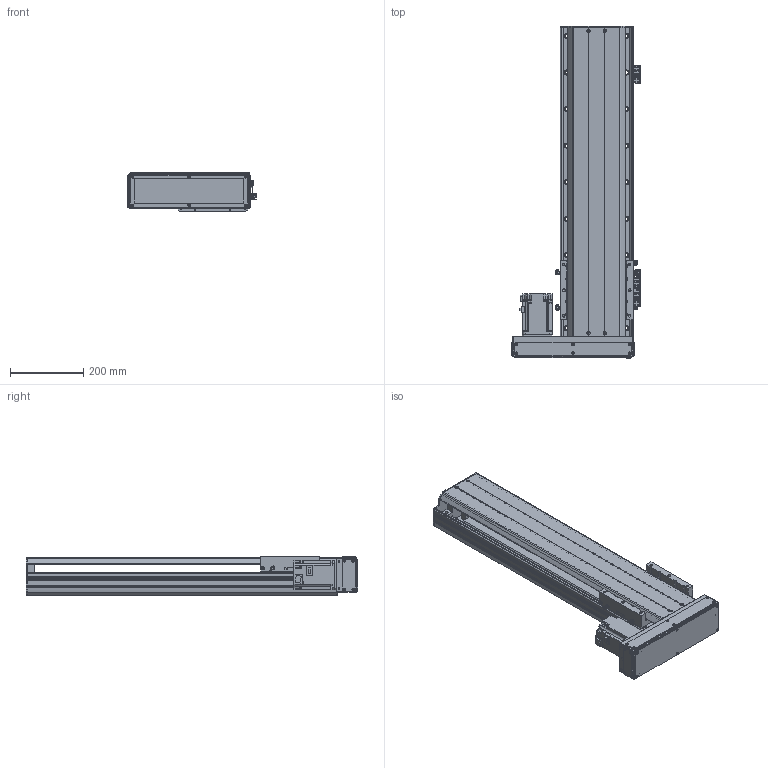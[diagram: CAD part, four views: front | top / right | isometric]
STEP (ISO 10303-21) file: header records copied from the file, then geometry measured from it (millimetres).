
FILE_DESCRIPTION(/* description */ ('MANUFACTURE'),/* implementation_level */ '2;1');
FILE_NAME(/* name */ '\\192.168.0.160\disk1\HAN SHIN Master\B-설계부문\C-표준\B-2024년\BC02-표준도면\+로봇 개선표준도면\표준 승인도 작업 폴더\3D\HG200\HG200병렬\좌병렬\HG200-L70-N-0600-R10.stp',/* time_stamp */ '2024-02-23T15:32:54+09:00',/* author */ ('User'),/* organization */ (''),/* preprocessor_version */ 'ST-DEVELOPER v18.1',/* originating_system */ 'Autodesk Inventor 2022',/* authorisation */ 'LIP');
FILE_SCHEMA (('AUTOMOTIVE_DESIGN { 1 0 10303 214 3 1 1 }'));
Products named in the file (22): HG200-L70-N-0500-R10; HR200 S BASE-개선; HR180 FRONT BLOCK; HR180 FRONT BLOCK_1; HR200 FRONT COVER; HR120 STOPPER; HR200 SENSOR DOG; HR200 S UPCOVER; HR200 TABLE (W,N); 750W MOTOR PLATE; HG200 750W LR MOTOR PLATE-사출; hg-kr73_; 화살표; hsr_ftht_A-M6F_grease_nipple_joint; NIPPLE CAP(신규); HR160 400W LR BELT COVER; HR200 ACRYL COVER -1; HR200 ACRYL COVER -1_1; HR200 ACRYL COVER -1_2; HG200 BOTTOM COVER; SENSOR BRK(EE-SX674A); EE_SX674A
Assembly tree (36 placements, depth 2):
  HG200-L70-N-0500-R10
    HR200 S BASE-개선
    HR180 FRONT BLOCK
    HR180 FRONT BLOCK_1
    HR200 FRONT COVER
    HR120 STOPPER  x2
    HR200 SENSOR DOG
    SENSOR BRK(EE-SX674A)  x3
    EE_SX674A  x3
    HR200 S UPCOVER
    HR200 TABLE (W,N)
    750W MOTOR PLATE
    HG200 750W LR MOTOR PLATE-사출
    hg-kr73_
    화살표  x2
    hsr_ftht_A-M6F_grease_nipple_joint  x5
    NIPPLE CAP(신규)  x5
    HR160 400W LR BELT COVER
    HR200 ACRYL COVER -1
    HR200 ACRYL COVER -1_1
    HR200 ACRYL COVER -1_2  x2
    HG200 BOTTOM COVER
Bounding box: 351 x 908 x 109 mm (x, y, z)
Volume: 6540176.4 mm3; surface area: 1777921.1 mm2
Topology: 36 solids, 36 shells, 3879 faces, 10928 edges, 7210 vertices
Faces by surface type: plane 2686, cylinder 864, cone 235, sphere 44, torus 30, bspline 20
Full cylindrical faces by diameter (mm): 2.459 x50, 3 x10, 3.242 x18, 3.4 x20, 3.5 x6, 4 x6, 4.134 x10, 4.5 x14, 4.917 x54, 5 x20, 5.5 x5, 5.6 x5, 5.9 x4, 6 x11, 6.5 x10, 6.6 x28, 6.647 x28, 7 x4, 7.6 x4, 8 x4, 9 x30, 9.5 x1, 11 x28, 14 x18, 19 x1, 25 x1, 27 x1, 30 x1, 32 x1, 38 x1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
Entity records: 110308 total; most frequent: CARTESIAN_POINT 21366, ORIENTED_EDGE 18496, DIRECTION 17320, EDGE_CURVE 9248, LINE 7416, VECTOR 7416, VERTEX_POINT 6178, AXIS2_PLACEMENT_3D 4952
